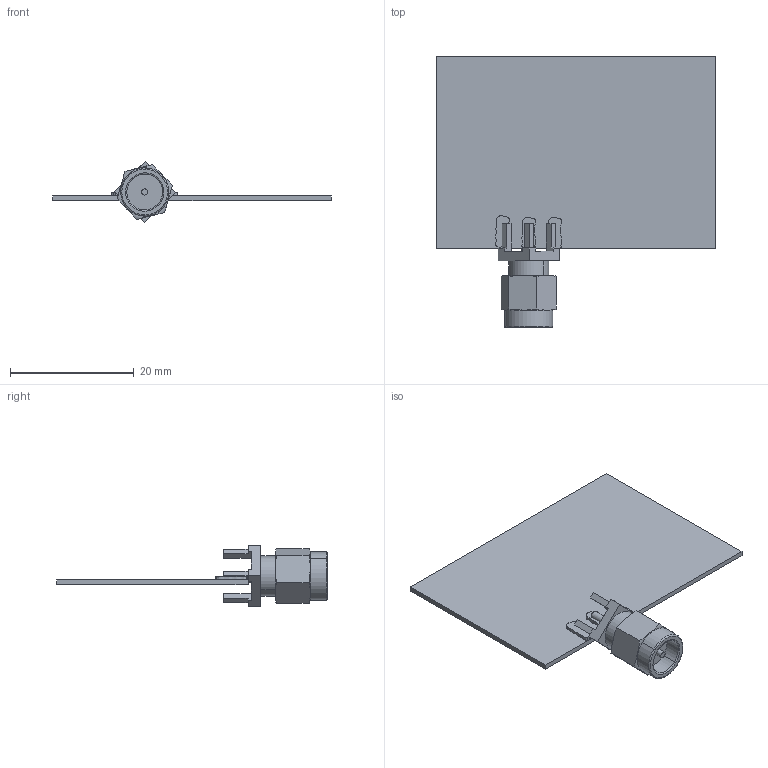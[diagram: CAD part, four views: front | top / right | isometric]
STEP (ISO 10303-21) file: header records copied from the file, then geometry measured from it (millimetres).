
FILE_DESCRIPTION((''),'2;1');
FILE_NAME('1002089_ASM','2019-10-07T',('mrodriguez'),(''),'CREO PARAMETRIC BY PTC INC, 2016130','CREO PARAMETRIC BY PTC INC, 2016130','');
FILE_SCHEMA(('AP203_CONFIGURATION_CONTROLLED_3D_DESIGN_OF_MECHANICAL_PARTS_AND_ASSEMBLIES_MIM_LF { 1 0 10303 403 2 1 2 }'));
Length unit declared in the file: millimetre
Products named in the file (4): 1002087; 1001941; SOLDER; 1002089_ASM
Assembly tree (3 placements, depth 2):
  1002089_ASM
    1002087
    1001941
    SOLDER
Bounding box: 45 x 43.86 x 9.9 mm (x, y, z)
Volume: 1683.7 mm3; surface area: 3596.5 mm2
Topology: 5 solids, 5 shells, 87 faces, 1143 edges, 1073 vertices
Faces by surface type: plane 55, cylinder 14, torus 8, extrusion 6, cone 4
Entity records: 12979 total; most frequent: CARTESIAN_POINT 2331, DIRECTION 1222, PRESENTATION_STYLE_ASSIGNMENT 1208, STYLED_ITEM 1205, CURVE_STYLE 1203, COMPOSITE_CURVE_SEGMENT 941, VECTOR 900, LINE 894
